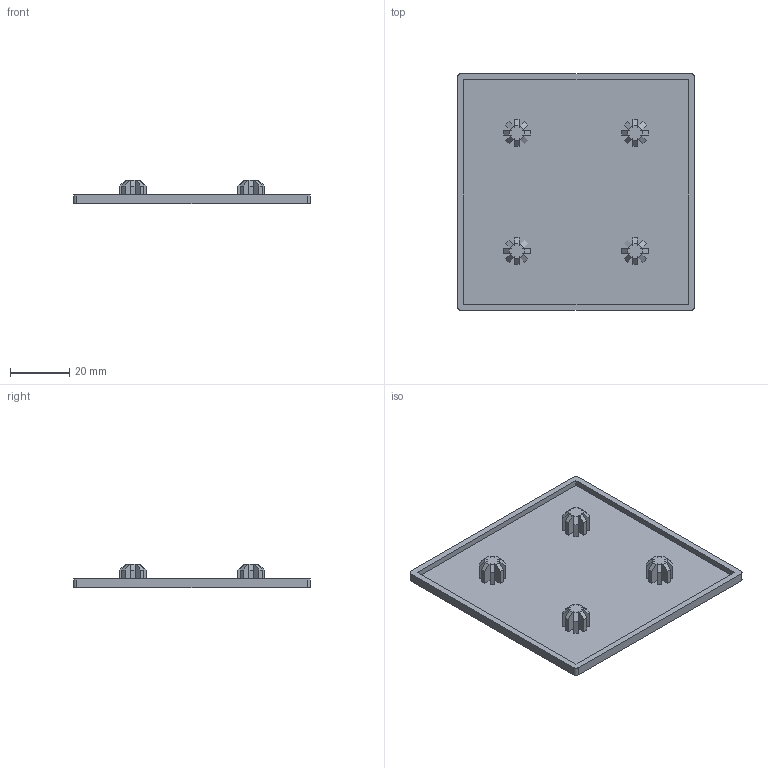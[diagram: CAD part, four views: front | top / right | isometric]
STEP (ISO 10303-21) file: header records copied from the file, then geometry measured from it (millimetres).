
FILE_DESCRIPTION(/* description */ (''),/* implementation_level */ '2;1');
FILE_NAME(/* name */ 'D:\cadd\new~產品型錄\端蓋\8系列\AMC-LN8080.stp',/* time_stamp */ '2016-12-09T17:01:29+08:00',/* author */ ('Owner'),/* organization */ (''),/* preprocessor_version */ 'ST-DEVELOPER v15.2',/* originating_system */ 'Autodesk Inventor 2014',/* authorisation */ '');
FILE_SCHEMA (('AUTOMOTIVE_DESIGN { 1 0 10303 214 3 1 1 }'));
Length unit declared in the file: millimetre
Products named in the file (1): AMC-LN8080
Bounding box: 80 x 80 x 8 mm (x, y, z)
Volume: 8757.2 mm3; surface area: 15717.7 mm2
Topology: 1 solids, 1 shells, 147 faces, 420 edges, 280 vertices
Faces by surface type: plane 143, cylinder 4
Entity records: 4723 total; most frequent: CARTESIAN_POINT 848, ORIENTED_EDGE 840, DIRECTION 724, EDGE_CURVE 420, LINE 412, VECTOR 412, VERTEX_POINT 280, AXIS2_PLACEMENT_3D 156
